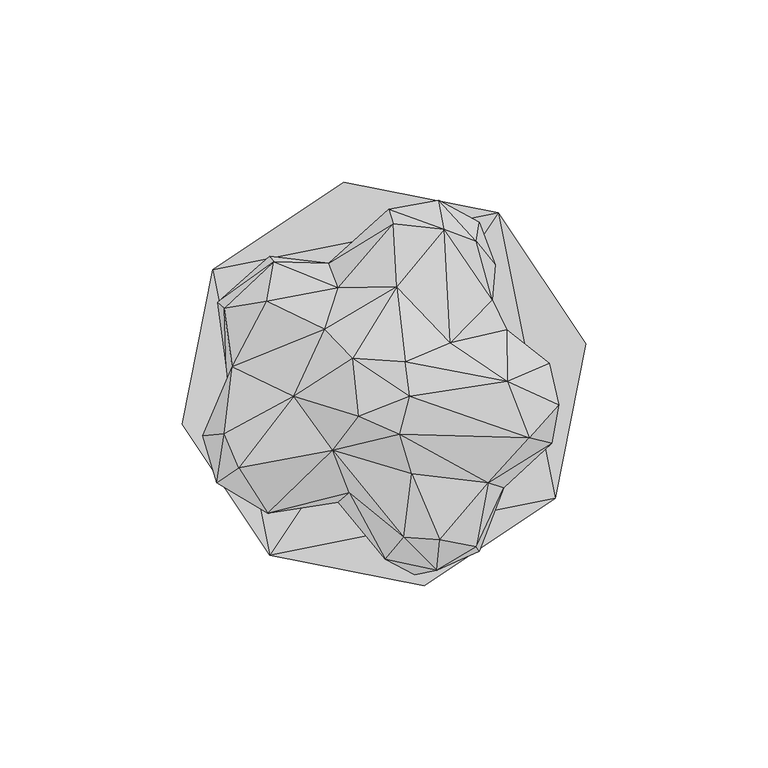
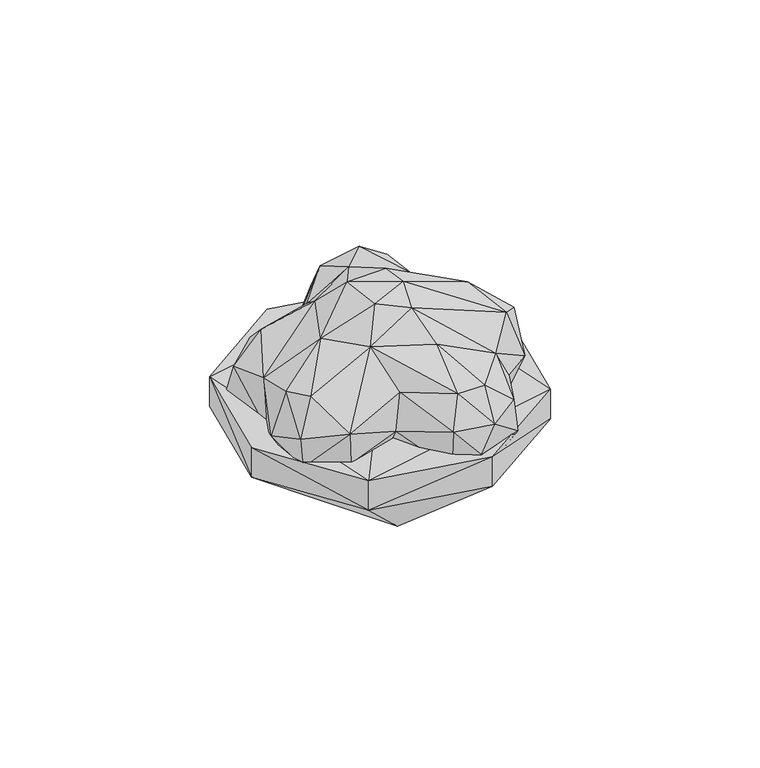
"""IFC4 building model written with IfcOpenShell, lengths in millimetres: geographic element geometry, Enscape AssetDefinition - Strawberry Bowl : Enscape AssetDefinition - Strawberry Bowl."""

from ifc_helpers import new_model, si_unit, origin, place, context, project, spatial, faceted_brep, source, transform, mapped, element, save


def geographic_element_9d54f048(model_context):
    return source(origin(), model_context, "Body", "Brep", [
        faceted_brep([(28.30033, 16.4332092, 41.6735336), (30.3217322, 33.1953317, 47.0543839), (29.481845, 23.6991215, 59.5195778), (18.3218457, 33.1038013, 32.5848199), (25.8318968, 44.895947, 47.5695319), (25.0941012, 39.7186875, 62.5118315), (2.8297561, 6.8644979, 31.3102975), (10.0234123, 38.638439, 31.8915173), (14.7868153, 50.9375185, 47.4990532), (16.256636, 42.9497063, 66.9764802), (2.2628603, 46.1467542, 40.8510789), (1.0036083, 48.5452712, 52.760087), (-3.9640502, 29.3611716, 35.5429612), (-15.4926376, 33.7326005, 47.1818149), (2.2744259, 44.5145927, 63.0160943), (3.2060819, 27.280679, 72.8307217), (17.8691465, 11.9103771, 74.6310726), (-12.8362495, 26.8940385, 63.7920722), (-16.5018383, 15.5106718, 73.0076879), (-8.8080205, 7.5884182, 82.7483982), (5.5884914, 6.6072922, 83.8119909), (33.5767455, 1.2367233, 71.9333589), (33.4255137, 15.423079, 58.0282994), (45.1626852, 6.2198667, 56.60972), (6.780907, -2.8499826, 83.8027596), (39.6075696, -14.2392693, 66.8329969), (47.6554558, -5.1944703, 60.4279451), (4.0629529, -13.2225147, 80.4497898), (-7.2158924, -8.3794761, 83.0178857), (45.7708761, -15.8021543, 47.9708649), (28.3447001, -26.6503636, 61.7724694), (45.2024452, -0.2450279, 40.8458635), (34.6649326, -0.4053863, 33.149343), (26.2109004, -20.6481088, 34.0445004), (32.6341726, -27.9215444, 52.3503311), (33.7412506, -24.3929289, 42.5022319), (10.00515, -33.6892046, 26.8596709), (-0.679831, -9.5078861, 31.0604703), (23.3610813, -39.5242982, 32.2019197), (-11.2454826, -25.2866726, 37.8343612), (-15.3095769, -10.1657556, 31.8741128), (14.6403341, -45.0238697, 31.4681418), (0.2520075, -46.0693315, 36.286708), (25.939716, -45.3759506, 42.6624566), (8.2248366, -51.8983006, 43.0596992), (0.089155, -47.561761, 52.4563529), (-12.8029492, -31.8984687, 47.7307513), (14.2111499, -50.6460927, 52.5570437), (25.0918344, -44.1775955, 54.6238907), (5.1350789, -41.6109748, 62.5167266), (15.0819253, -42.2769487, 62.9422963), (-9.7796731, -29.3194409, 60.9197766), (-14.3192606, -17.6674668, 73.8356411), (7.3343548, -24.1140909, 71.201399), (-25.0188801, -2.9007767, 72.110258), (-44.0702885, -13.154326, 63.500613), (-40.1069298, -22.4808697, 65.75948), (-41.9367328, 5.2152351, 57.1576878), (-32.5248279, 23.171654, 62.5691414), (-44.1001803, 21.321753, 52.7577475), (-43.473009, 0.4680296, 39.7830382), (-50.0110313, -13.6701446, 47.962267), (-46.2532043, -26.617419, 53.1374626), (-44.7665676, -25.814889, 40.8567339), (-42.0793258, -14.3677257, 34.6082263), (-32.2464257, -35.0262672, 55.3913303), (-31.7750834, -23.2925285, 31.3947164), (-31.1231967, -33.8653252, 42.512849), (-34.1886804, -2.9948377, 32.0616141), (-43.1474373, 20.0964604, 33.1194662), (-28.5587125, 20.5456316, 24.5878305), (-13.1332232, 26.8384218, 33.3873294), (-29.8272092, 33.2275145, 34.1263376), (-46.0912399, 22.989234, 42.3261151), (-30.5007566, 34.1406465, 51.8485717), (-31.5909982, 35.6471613, 43.1445241)], [[[0, 1, 2]], [[3, 1, 0]], [[3, 4, 1]], [[1, 5, 2]], [[4, 5, 1]], [[6, 7, 3]], [[7, 4, 3]], [[6, 3, 0]], [[8, 5, 4]], [[7, 8, 4]], [[8, 9, 5]], [[5, 9, 2]], [[10, 11, 8]], [[10, 8, 7]], [[11, 9, 8]], [[10, 7, 12]], [[6, 12, 7]], [[12, 13, 10]], [[10, 13, 11]], [[11, 13, 14]], [[14, 9, 11]], [[15, 9, 14]], [[16, 2, 9]], [[15, 16, 9]], [[17, 15, 14]], [[14, 13, 17]], [[18, 19, 15]], [[20, 15, 19]], [[17, 18, 15]], [[20, 16, 15]], [[16, 21, 22]], [[22, 2, 16]], [[20, 21, 16]], [[0, 2, 22]], [[0, 22, 23]], [[21, 23, 22]], [[24, 21, 20]], [[24, 25, 21]], [[21, 26, 23]], [[25, 26, 21]], [[24, 20, 19]], [[27, 25, 24]], [[28, 27, 24]], [[28, 24, 19]], [[29, 25, 30]], [[30, 25, 27]], [[29, 26, 25]], [[29, 31, 26]], [[31, 23, 26]], [[23, 31, 0]], [[32, 31, 33]], [[0, 31, 32]], [[33, 31, 29]], [[30, 34, 29]], [[35, 33, 29]], [[35, 29, 34]], [[36, 37, 33]], [[35, 38, 33]], [[37, 32, 33]], [[38, 36, 33]], [[37, 6, 32]], [[6, 0, 32]], [[39, 40, 37]], [[40, 6, 37]], [[36, 39, 37]], [[41, 36, 38]], [[42, 36, 41]], [[36, 42, 39]], [[38, 43, 41]], [[43, 38, 35]], [[42, 41, 44]], [[41, 43, 44]], [[42, 45, 46]], [[39, 42, 46]], [[44, 45, 42]], [[44, 43, 47]], [[44, 47, 45]], [[35, 34, 43]], [[43, 34, 48]], [[47, 43, 48]], [[49, 45, 47]], [[48, 50, 47]], [[49, 47, 50]], [[51, 46, 45]], [[51, 45, 49]], [[52, 51, 49]], [[49, 50, 53]], [[52, 49, 53]], [[48, 30, 50]], [[50, 30, 53]], [[48, 34, 30]], [[53, 30, 27]], [[27, 52, 53]], [[28, 52, 27]], [[54, 28, 19]], [[54, 52, 28]], [[19, 18, 54]], [[55, 56, 54]], [[54, 18, 57]], [[52, 54, 56]], [[54, 57, 55]], [[57, 18, 58]], [[58, 18, 17]], [[57, 59, 60]], [[55, 57, 61]], [[59, 57, 58]], [[61, 57, 60]], [[56, 55, 62]], [[62, 55, 61]], [[63, 62, 61]], [[64, 61, 60]], [[63, 61, 64]], [[63, 65, 62]], [[62, 65, 56]], [[63, 66, 67]], [[67, 65, 63]], [[63, 64, 66]], [[64, 68, 66]], [[64, 60, 68]], [[39, 66, 40]], [[66, 39, 67]], [[68, 40, 66]], [[67, 46, 65]], [[67, 39, 46]], [[46, 51, 65]], [[65, 51, 52]], [[56, 65, 52]], [[69, 70, 68]], [[68, 70, 40]], [[69, 68, 60]], [[40, 70, 6]], [[70, 71, 12]], [[70, 69, 72]], [[72, 71, 70]], [[6, 70, 12]], [[69, 73, 72]], [[60, 73, 69]], [[60, 59, 73]], [[73, 59, 74]], [[72, 73, 75]], [[73, 74, 75]], [[72, 75, 13]], [[13, 71, 72]], [[71, 13, 12]], [[74, 17, 13]], [[75, 74, 13]], [[74, 58, 17]], [[59, 58, 74]]]),
        faceted_brep([(10.7440064, -54.9068488, 31.3451178), (46.7085801, -30.8760665, 31.3451178), (10.7440064, -54.9068488, 43.2700403), (55.1470257, 11.5470598, 31.3451178), (46.7085801, -30.8760665, 43.2700403), (20.9800899, 12.260519, 1.8890561), (19.4348991, -12.6524037, 2.3135997), (-31.6791125, -46.4683734, 31.3451178), (-31.6791125, -46.4683734, 43.2700403), (-7.0149354, -22.8132159, 1.8890561), (-4.9075182, 23.7785913, 2.3135997), (31.1162174, 47.5116037, 31.3451178), (-11.3068279, 55.9500456, 31.3451178), (-23.6162413, 7.2551211, 1.8890561), (-55.7098761, -10.5038034, 31.3451178), (-55.7098761, -10.5038034, 43.2700403), (-47.2713932, 31.9192894, 31.3451178), (-47.2713932, 31.9192894, 43.2700403), (31.1162174, 47.5116037, 43.2700403), (-11.3068279, 55.9500456, 43.2700403), (55.1470257, 11.5470598, 43.2700403)], [[[0, 1, 2]], [[1, 3, 4]], [[3, 1, 5]], [[2, 1, 4]], [[5, 1, 6]], [[0, 6, 1]], [[0, 2, 7]], [[7, 2, 8]], [[4, 8, 2]], [[0, 7, 9]], [[9, 6, 0]], [[10, 5, 6]], [[10, 6, 9]], [[3, 5, 11]], [[10, 11, 5]], [[12, 11, 10]], [[10, 9, 13]], [[13, 12, 10]], [[7, 14, 9]], [[9, 14, 13]], [[14, 7, 15]], [[15, 7, 8]], [[14, 16, 13]], [[16, 14, 17]], [[17, 14, 15]], [[16, 12, 13]], [[16, 17, 12]], [[11, 12, 18]], [[12, 17, 19]], [[18, 12, 19]], [[17, 18, 19]], [[8, 17, 15]], [[8, 18, 17]], [[18, 8, 4]], [[20, 11, 18]], [[18, 4, 20]], [[4, 3, 20]], [[3, 11, 20]]]),
    ])


if __name__ == "__main__":
    model = new_model("IFC4")
    model_context = context("Model", 3, world=origin())
    ifc_project = project(units=[si_unit("LENGTHUNIT", "METRE", prefix="MILLI")], contexts=[model_context])
    site = spatial("IfcSite", under=ifc_project)
    building = spatial("IfcBuilding", under=site)
    placement = place(None, origin())
    geographic_element_shape = geographic_element_9d54f048(model_context)
    element("IfcGeographicElement", 1, ObjectType="Enscape AssetDefinition - Strawberry Bowl : Enscape AssetDefinition - Strawberry Bowl", at=placement, inside=building, context=model_context, shape_type="MappedRepresentation", body=[
        mapped(geographic_element_shape, transform((0.0, 0.0, 0.0), x_axis=(1.0, 0.0, 0.0), y_axis=(0.0, 1.0, 0.0), z_axis=(0.0, 0.0, 1.0))),
    ])
    save(model, "model.ifc")
